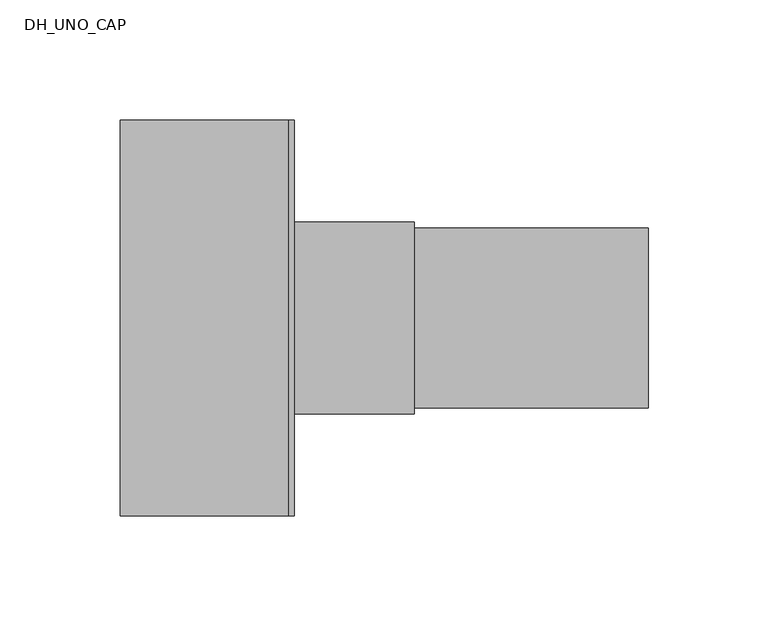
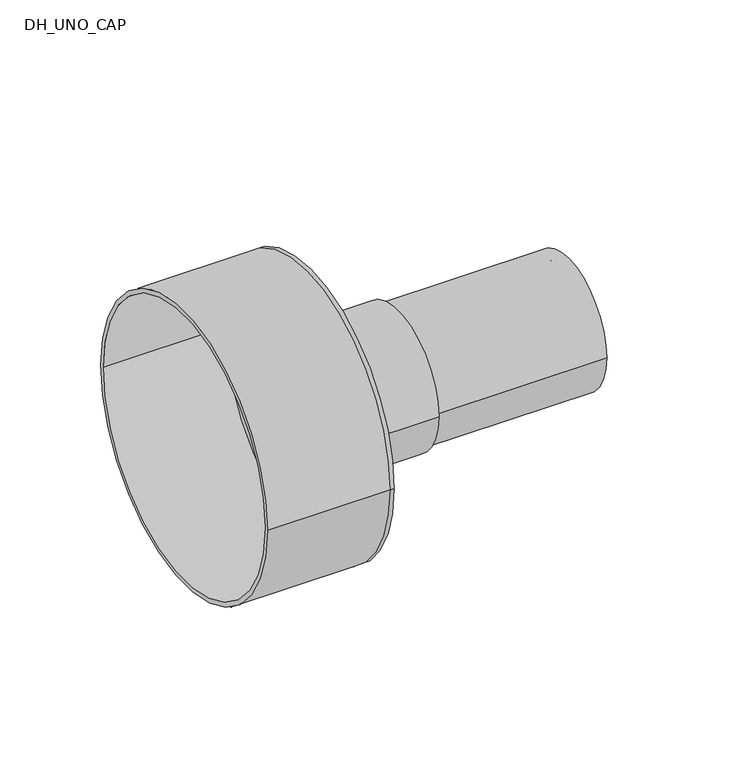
"""IFC4 building model written with IfcOpenShell, lengths in millimetres: pipe fitting geometry, DH_UNO_CAP : INSULPEX UNO + 11 Heating - Rubber Cap."""

import ifcopenshell
import ifcopenshell.guid

model = None  # the IFC model being written
_history = None  # IfcOwnerHistory: only IFC2X3 demands one
_inside = {}  # id of a spatial element -> (the spatial element, [elements in it])
_under = {}  # id of a project, library or spatial element -> (it, [spatial elements below it])
_declared = {}  # id of a project -> (the project, [libraries it declares])
_typed = {}  # id of a type object -> (the type object, [elements of that type])
_made_of = {}  # id of a material, layer set ... -> (it, [elements and type objects made of it])


def new_model(schema):
    """Start an empty IFC model of exactly this schema.

    Asked for "IFC4X3", IfcOpenShell would pick the latest addendum, in which some entities
    have other attributes; the version numbers below select the first issue.
    IFC2X3 requires an IfcOwnerHistory on every rooted entity: one is made here for all.
    """
    global model, _history
    if schema == "IFC4X3":
        model = ifcopenshell.file(schema_version=(4, 3, 0, 0))
    else:
        model = ifcopenshell.file(schema=schema)
    _inside.clear()
    _under.clear()
    _declared.clear()
    _typed.clear()
    _made_of.clear()
    _history = None
    if model.schema == "IFC2X3":
        org = make("IfcOrganization", Name="unknown")
        user = make(
            "IfcPersonAndOrganization",
            ThePerson=make("IfcPerson", FamilyName="unknown"),
            TheOrganization=org,
        )
        app = make(
            "IfcApplication",
            ApplicationDeveloper=org,
            Version="unknown",
            ApplicationFullName="unknown",
            ApplicationIdentifier="unknown",
        )
        _history = make(
            "IfcOwnerHistory",
            OwningUser=user,
            OwningApplication=app,
            ChangeAction="ADDED",
            CreationDate=0,
        )
    return model


def make(cls, **values):
    """One entity of the class cls with the attributes given. An attribute that is None is left unset."""
    return model.create_entity(
        cls, **{name: value for name, value in values.items() if value is not None}
    )


def rooted(cls, **values):
    """An entity with a GlobalId (a new one), such as an element, a storey or a relation."""
    return make(cls, GlobalId=ifcopenshell.guid.new(), OwnerHistory=_history, **values)


def si_unit(unit_type, name, prefix=None):
    """IfcSIUnit, for example si_unit("LENGTHUNIT", "METRE", prefix="MILLI")."""
    return make("IfcSIUnit", UnitType=unit_type, Prefix=prefix, Name=name)


def assignment(units):
    """IfcUnitAssignment: the units of a project."""
    return None if units is None else make("IfcUnitAssignment", Units=units)


def point(xyz):
    """IfcCartesianPoint."""
    return None if xyz is None else make("IfcCartesianPoint", Coordinates=xyz)


def direction(xyz):
    """IfcDirection."""
    return None if xyz is None else make("IfcDirection", DirectionRatios=xyz)


def frame(location, z_axis=None, x_axis=None):
    """IfcAxis2Placement3D, a coordinate frame: its origin and axes. An axis left out is left unset."""
    return make(
        "IfcAxis2Placement3D",
        Location=point(location),
        Axis=direction(z_axis),
        RefDirection=direction(x_axis),
    )


def frame_2d(location, x_axis=None):
    """IfcAxis2Placement2D, a coordinate frame in the plane: its origin and x axis."""
    return make(
        "IfcAxis2Placement2D", Location=point(location), RefDirection=direction(x_axis)
    )


def origin():
    """The frame at (0, 0, 0) with its axes left unset."""
    return frame((0.0, 0.0, 0.0))


def origin_2d():
    """The frame at (0, 0) in the plane with its x axis left unset."""
    return frame_2d((0.0, 0.0))


def place(relative_to, where):
    """IfcLocalPlacement: puts the frame where relative to a parent placement (None: the world)."""
    return make(
        "IfcLocalPlacement", PlacementRelTo=relative_to, RelativePlacement=where
    )


def context(
    kind, dimensions, precision=None, world=None, true_north=None, identifier=None
):
    """IfcGeometricRepresentationContext, for example the 3D "Model" context."""
    return make(
        "IfcGeometricRepresentationContext",
        ContextIdentifier=identifier,
        ContextType=kind,
        CoordinateSpaceDimension=dimensions,
        Precision=precision,
        WorldCoordinateSystem=world,
        TrueNorth=true_north,
    )


def project(units=None, contexts=None):
    """IfcProject with its units and contexts."""
    return rooted(
        "IfcProject",
        Name="project",
        RepresentationContexts=contexts,
        UnitsInContext=assignment(units),
    )


def spatial(cls, under=None, at=None, **own):
    """A site, building, storey or space (cls), placed at a placement, below another one or the project."""
    s = rooted(cls, ObjectPlacement=at, **own)
    if under is not None:
        _under.setdefault(under.id(), (under, []))[1].append(s)
    return s


def polyline(points):
    """IfcPolyline through the points."""
    return make("IfcPolyline", Points=[point(p) for p in points])


def circle_curve(where, radius):
    """IfcCircle in the frame where."""
    return make("IfcCircle", Position=where, Radius=radius)


def trimmed(basis, trim1, trim2, sense, master):
    """IfcTrimmedCurve: the piece of a basis curve between two trims."""
    return make(
        "IfcTrimmedCurve",
        BasisCurve=basis,
        Trim1=trim1,
        Trim2=trim2,
        SenseAgreement=sense,
        MasterRepresentation=master,
    )


def segment(curve, same_sense, transition):
    """IfcCompositeCurveSegment."""
    return make(
        "IfcCompositeCurveSegment",
        Transition=transition,
        SameSense=same_sense,
        ParentCurve=curve,
    )


def composite_curve(segments, self_intersect=None):
    """IfcCompositeCurve: segments joined end to end."""
    return make("IfcCompositeCurve", Segments=segments, SelfIntersect=self_intersect)


def outline(outer, holes=None, kind="AREA"):
    """IfcArbitraryClosedProfileDef: a profile drawn as a closed curve; with holes, ...WithVoids."""
    if holes is None:
        return make("IfcArbitraryClosedProfileDef", ProfileType=kind, OuterCurve=outer)
    return make(
        "IfcArbitraryProfileDefWithVoids",
        ProfileType=kind,
        OuterCurve=outer,
        InnerCurves=holes,
    )


def extrude(swept, where, along, depth):
    """IfcExtrudedAreaSolid: the profile swept, set in the frame where, extruded along a direction by depth."""
    return make(
        "IfcExtrudedAreaSolid",
        SweptArea=swept,
        Position=where,
        ExtrudedDirection=direction(along),
        Depth=depth,
    )


def shape(context_of_items, identifier, shape_type, items):
    """IfcShapeRepresentation: the items that make up one representation, for example the "Body"."""
    return make(
        "IfcShapeRepresentation",
        ContextOfItems=context_of_items,
        RepresentationIdentifier=identifier,
        RepresentationType=shape_type,
        Items=items,
    )


def source(mapping_origin, context_of_items, identifier, shape_type, items):
    """IfcRepresentationMap: a shape defined once, which mapped items show again and again."""
    return make(
        "IfcRepresentationMap",
        MappingOrigin=mapping_origin,
        MappedRepresentation=shape(context_of_items, identifier, shape_type, items),
    )


def transform(
    local_origin,
    x_axis=None,
    y_axis=None,
    z_axis=None,
    scale=None,
    scale2=None,
    scale3=None,
    uniform=True,
):
    """IfcCartesianTransformationOperator3D, or its non-uniform kind. x_axis, y_axis, z_axis: its Axis1, 2, 3."""
    if uniform:
        return make(
            "IfcCartesianTransformationOperator3D",
            Axis1=direction(x_axis),
            Axis2=direction(y_axis),
            LocalOrigin=point(local_origin),
            Scale=scale,
            Axis3=direction(z_axis),
        )
    return make(
        "IfcCartesianTransformationOperator3DnonUniform",
        Axis1=direction(x_axis),
        Axis2=direction(y_axis),
        LocalOrigin=point(local_origin),
        Scale=scale,
        Axis3=direction(z_axis),
        Scale2=scale2,
        Scale3=scale3,
    )


def mapped(mapping_source, mapping_target):
    """IfcMappedItem: shows the shape of a source again, moved by a transform."""
    return make(
        "IfcMappedItem", MappingSource=mapping_source, MappingTarget=mapping_target
    )


def made_of(thing, what):
    """Note that an element or type object is made of a material, layer set ...; save() writes the relation."""
    if what is not None:
        _made_of.setdefault(what.id(), (what, []))[1].append(thing)
    return thing


def element(
    cls,
    number,
    at=None,
    inside=None,
    cuts=None,
    type_object=None,
    material=None,
    context=None,
    identifier="Body",
    shape_type=None,
    held_by="IfcProductDefinitionShape",
    body=None,
    shapes=None,
    **own,
):
    """One element of the class cls, such as IfcWall. Its Tag is "e" and its number.

    at: its placement. inside: the storey or other place that contains it. cuts: it is an
    opening in that element (IfcRelVoidsElement). A single representation is given by context,
    identifier, shape_type and body (its items); several are given by shapes. held_by: the class
    of the entity that holds the representations. save() writes the other relations.
    """
    e = rooted(cls, Tag="e%d" % number, ObjectPlacement=at, **own)
    if body is not None:
        shapes = [shape(context, identifier, shape_type, body)]
    if shapes is not None:
        e.Representation = make(held_by, Representations=shapes)
    if inside is not None:
        _inside.setdefault(inside.id(), (inside, []))[1].append(e)
    if cuts is not None:
        rooted(
            "IfcRelVoidsElement", RelatingBuildingElement=cuts, RelatedOpeningElement=e
        )
    if type_object is not None:
        _typed.setdefault(type_object.id(), (type_object, []))[1].append(e)
    return made_of(e, material)


def aggregate(whole, parts):
    """IfcRelAggregates: a whole, such as a stair, and the parts it consists of."""
    return rooted("IfcRelAggregates", RelatingObject=whole, RelatedObjects=parts)


def save(model, path):
    """Write the relations noted so far, then the file.

    IfcRelAggregates (storeys below a building ...), IfcRelContainedInSpatialStructure (elements
    in a storey), IfcRelDefinesByType, IfcRelAssociatesMaterial and IfcRelDeclares: one each for
    every whole, place, type object, material and project.
    """
    for whole, parts in _under.values():
        aggregate(whole, parts)
    for where, things in _inside.values():
        rooted(
            "IfcRelContainedInSpatialStructure",
            RelatedElements=things,
            RelatingStructure=where,
        )
    for kind, things in _typed.values():
        rooted("IfcRelDefinesByType", RelatedObjects=things, RelatingType=kind)
    for what, things in _made_of.values():
        rooted("IfcRelAssociatesMaterial", RelatedObjects=things, RelatingMaterial=what)
    for by, libraries in _declared.values():
        rooted("IfcRelDeclares", RelatingContext=by, RelatedDefinitions=libraries)
    model.write(path)


def plane_surface(at):
    """IfcPlane: the flat surface through the origin of the frame at, square to its z axis."""
    return make("IfcPlane", Position=at)


def cylinder_surface(at, radius):
    """IfcCylindricalSurface: all points at the distance radius from the z axis of the frame at."""
    return make("IfcCylindricalSurface", Position=at, Radius=radius)


def revolved_surface(curve, axis_point, axis_direction):
    """IfcSurfaceOfRevolution: the curve turned about the line through axis_point along axis_direction."""
    return make(
        "IfcSurfaceOfRevolution",
        SweptCurve=make("IfcArbitraryOpenProfileDef", ProfileType="CURVE", Curve=curve),
        AxisPosition=make("IfcAxis1Placement", Location=point(axis_point), Axis=direction(axis_direction)),
    )


def advanced_brep(points, edges, surfaces, faces):
    """IfcAdvancedBrep: a solid bounded by faces that lie on surfaces and meet in shared edges.

    An edge is (start, end): straight between two places in points (the first is 0);
    or (start, end, curve); or (start, end, curve, False) where it runs against its curve.
    A face is (place in surfaces, loops), or (place, loops, False) where it looks against
    its surface's normal. A loop lists edges by number (the first is 1), with a minus sign
    where the edge is run from its end to its start. The first loop is the outer one.
    """
    corners = [point(p) for p in points]
    vertices = [make("IfcVertexPoint", VertexGeometry=c) for c in corners]
    made = []
    for start, end, *more in edges:
        made.append(
            make(
                "IfcEdgeCurve",
                EdgeStart=vertices[start],
                EdgeEnd=vertices[end],
                EdgeGeometry=more[0] if more else make("IfcPolyline", Points=[corners[start], corners[end]]),
                SameSense=more[1] if len(more) > 1 else True,
            )
        )
    hull = []
    for where, loops, *sense in faces:
        bounds = []
        for j, loop in enumerate(loops):
            ring = [make("IfcOrientedEdge", EdgeElement=made[abs(k) - 1], Orientation=k > 0) for k in loop]
            bounds.append(
                make(
                    "IfcFaceOuterBound" if j == 0 else "IfcFaceBound",
                    Bound=make("IfcEdgeLoop", EdgeList=ring),
                    Orientation=True,
                )
            )
        hull.append(make("IfcAdvancedFace", Bounds=bounds, FaceSurface=surfaces[where], SameSense=sense[0] if sense else True))
    return make("IfcAdvancedBrep", Outer=make("IfcClosedShell", CfsFaces=hull))


def dh_uno_cap_2e9ba6ca(model_context):
    return source(origin(), model_context, "Body", "SolidModel", [
        extrude(outline(composite_curve([segment(trimmed(circle_curve(origin_2d(), 37.5), [point((-37.5, 0.0))], [point((37.5, 0.0))], False, "CARTESIAN"), True, "CONTINUOUS"), segment(trimmed(circle_curve(origin_2d(), 37.5), [point((37.5, 0.0))], [point((-37.5, 0.0))], False, "CARTESIAN"), True, "CONTINUOUS")], self_intersect=False), holes=[composite_curve([segment(trimmed(circle_curve(origin_2d(), 30.7), [point((-30.7, 0.0))], [point((30.7, 0.0))], True, "CARTESIAN"), True, "CONTINUOUS"), segment(trimmed(circle_curve(origin_2d(), 30.7), [point((30.7, 0.0))], [point((-30.7, 0.0))], True, "CARTESIAN"), True, "CONTINUOUS")], self_intersect=False)]), frame((0.0, 0.0, 0.0), z_axis=(1.0, 0.0, 0.0), x_axis=(0.0, 1.0, 0.0)), (0.0, 0.0, 1.0), 150.0),
        advanced_brep(
        [(-70.0, -82.5, 0.0), (-70.0, 82.5, 0.0), (-70.0, -80.0, 0.0), (-70.0, 80.0, 0.0), (0.0, -80.0, 0.0), (0.0, 80.0, 0.0), (0.0, -82.5, 0.0), (0.0, 82.5, 0.0), (0.0, 37.5, 0.0), (0.0, -37.5, 0.0), (2.5, -82.5, 0.0), (2.5, 82.5, 0.0), (2.5, -37.5, 0.0), (2.5, 37.5, 0.0)],
        [
            (0, 1, circle_curve(frame((-70.0, 0.0, 0.0), z_axis=(-1.0, 0.0, 0.0), x_axis=(0.0, 1.0, 0.0)), 82.5)),
            (1, 0, circle_curve(frame((-70.0, 0.0, 0.0), z_axis=(-1.0, 0.0, 0.0), x_axis=(0.0, 1.0, 0.0)), 82.5)),
            (2, 3, circle_curve(frame((-70.0, 0.0, 0.0), z_axis=(1.0, 0.0, 0.0), x_axis=(0.0, 1.0, 0.0)), 80.0)),
            (3, 2, circle_curve(frame((-70.0, 0.0, 0.0), z_axis=(1.0, 0.0, 0.0), x_axis=(0.0, 1.0, 0.0)), 80.0)),
            (2, 4),
            (4, 5, circle_curve(frame((0.0, 0.0, 0.0), z_axis=(1.0, 0.0, 0.0), x_axis=(0.0, 1.0, 0.0)), 80.0)),
            (5, 3),
            (5, 4, circle_curve(frame((0.0, 0.0, 0.0), z_axis=(1.0, 0.0, 0.0), x_axis=(0.0, 1.0, 0.0)), 80.0)),
            (0, 6),
            (6, 7, circle_curve(frame((0.0, 0.0, 0.0), z_axis=(-1.0, 0.0, 0.0), x_axis=(0.0, 1.0, 0.0)), 82.5)),
            (7, 1),
            (7, 6, circle_curve(frame((0.0, 0.0, 0.0), z_axis=(-1.0, 0.0, 0.0), x_axis=(0.0, 1.0, 0.0)), 82.5)),
            (8, 9, circle_curve(frame((0.0, 0.0, 0.0), z_axis=(1.0, 0.0, 0.0), x_axis=(0.0, 1.0, 0.0)), 37.5)),
            (9, 8, circle_curve(frame((0.0, 0.0, 0.0), z_axis=(1.0, 0.0, 0.0), x_axis=(0.0, 1.0, 0.0)), 37.5)),
            (10, 11, circle_curve(frame((2.5, 0.0, 0.0), z_axis=(1.0, 0.0, 0.0), x_axis=(0.0, 1.0, 0.0)), 82.5)),
            (11, 10, circle_curve(frame((2.5, 0.0, 0.0), z_axis=(1.0, 0.0, 0.0), x_axis=(0.0, 1.0, 0.0)), 82.5)),
            (12, 13, circle_curve(frame((2.5, 0.0, 0.0), z_axis=(-1.0, 0.0, 0.0), x_axis=(0.0, 1.0, 0.0)), 37.5)),
            (13, 12, circle_curve(frame((2.5, 0.0, 0.0), z_axis=(-1.0, 0.0, 0.0), x_axis=(0.0, 1.0, 0.0)), 37.5)),
            (11, 7),
            (6, 10),
            (8, 13),
            (12, 9),
        ],
        [
            plane_surface(frame((-70.0, 0.0, 0.0), z_axis=(-1.0, 0.0, 0.0), x_axis=(0.0, 0.0, 1.0))),
            revolved_surface(polyline([(0.0, 80.0, 0.0), (-70.0, 80.0, 0.0)]), (-70.0, 0.0, 0.0), (1.0, 0.0, 0.0)),
            cylinder_surface(frame((-70.0, 0.0, 0.0), z_axis=(-1.0, 0.0, 0.0), x_axis=(0.0, 1.0, 0.0)), 82.5),
            plane_surface(frame((0.0, 0.0, 0.0), z_axis=(-1.0, 0.0, 0.0), x_axis=(0.0, 0.0, 1.0))),
            plane_surface(frame((2.5, 0.0, 0.0), z_axis=(1.0, 0.0, 0.0), x_axis=(0.0, 0.0, 1.0))),
            cylinder_surface(frame((0.0, 0.0, 0.0), z_axis=(-1.0, 0.0, 0.0), x_axis=(0.0, 1.0, 0.0)), 82.5),
            revolved_surface(polyline([(0.0, 37.5, 0.0), (2.5, 37.5, 0.0)]), (0.0, 0.0, 0.0), (-1.0, 0.0, 0.0)),
        ],
        [
            (0, [[1, 2], [3, 4]]),
            (1, [[-3, 5, 6, 7]]),
            (1, [[-4, -7, 8, -5]]),
            (2, [[-1, 9, 10, 11]]),
            (2, [[-2, -11, 12, -9]]),
            (3, [[-6, -8], [13, 14]]),
            (4, [[15, 16], [17, 18]]),
            (5, [[-16, 19, -10, 20]]),
            (5, [[-15, -20, -12, -19]]),
            (6, [[21, -17, 22, -13]]),
            (6, [[-21, -14, -22, -18]]),
        ],
    ),
        extrude(outline(composite_curve([segment(trimmed(circle_curve(origin_2d(), 40.0), [point((-40.0, 0.0))], [point((40.0, 0.0))], False, "CARTESIAN"), True, "CONTINUOUS"), segment(trimmed(circle_curve(origin_2d(), 40.0), [point((40.0, 0.0))], [point((-40.0, 0.0))], False, "CARTESIAN"), True, "CONTINUOUS")], self_intersect=False), holes=[composite_curve([segment(trimmed(circle_curve(origin_2d(), 37.5), [point((-37.5, 0.0))], [point((37.5, 0.0))], True, "CARTESIAN"), True, "CONTINUOUS"), segment(trimmed(circle_curve(origin_2d(), 37.5), [point((37.5, 0.0))], [point((-37.5, 0.0))], True, "CARTESIAN"), True, "CONTINUOUS")], self_intersect=False)]), frame((2.5, 0.0, 0.0), z_axis=(1.0, 0.0, 0.0), x_axis=(0.0, 1.0, 0.0)), (0.0, 0.0, 1.0), 50.0),
    ])


if __name__ == "__main__":
    model = new_model("IFC4")
    model_context = context("Model", 3, world=origin())
    ifc_project = project(units=[si_unit("LENGTHUNIT", "METRE", prefix="MILLI")], contexts=[model_context])
    site = spatial("IfcSite", under=ifc_project)
    building = spatial("IfcBuilding", under=site)
    placement = place(None, origin())
    dh_uno_cap_shape = dh_uno_cap_2e9ba6ca(model_context)
    element("IfcPipeFitting", 1, ObjectType="DH_UNO_CAP : INSULPEX UNO + 11 Heating - Rubber Cap", at=placement, inside=building, context=model_context, shape_type="MappedRepresentation", body=[
        mapped(dh_uno_cap_shape, transform((0.0, 0.0, 0.0), x_axis=(1.0, 0.0, 0.0), y_axis=(0.0, 1.0, 0.0), z_axis=(0.0, 0.0, 1.0))),
    ])
    save(model, "model.ifc")
